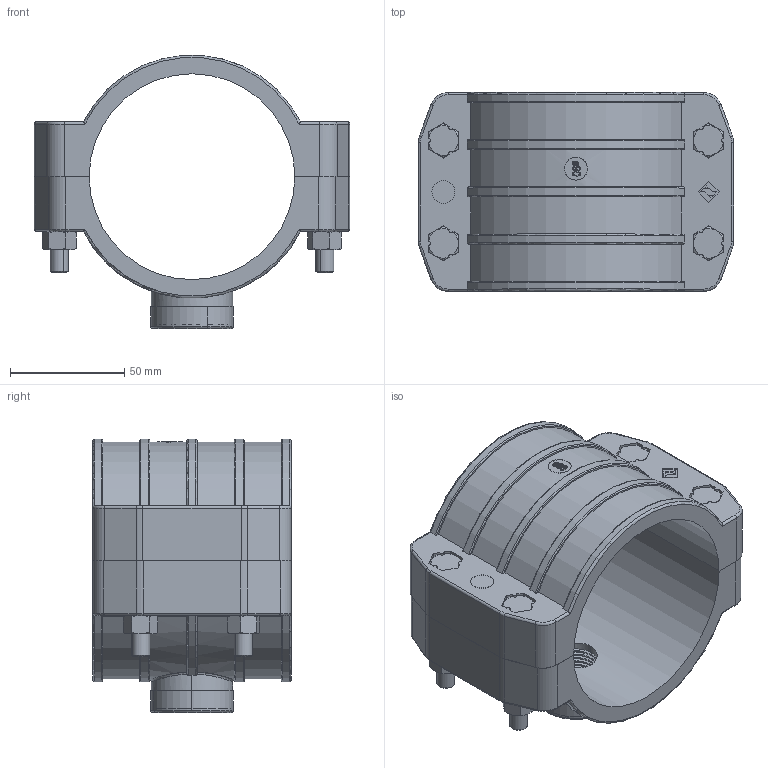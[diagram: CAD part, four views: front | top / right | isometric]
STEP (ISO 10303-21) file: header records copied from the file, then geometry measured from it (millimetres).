
FILE_DESCRIPTION (( 'STEP AP214' ), '1' );
FILE_NAME ('1580010065 - Staffa 90 - 1-2''''.STEP', '2021-11-22T15:55:02', ( '' ), ( '' ), 'SwSTEP 2.0', 'SolidWorks 2021', '' );
FILE_SCHEMA (( 'AUTOMOTIVE_DESIGN' ));
Length unit declared in the file: millimetre
Products named in the file (6): 158918016 - Staffa filettata azzurra D90x1_2''''; Dado M8^1580010065 - Staffa 90 - 1-2''''; 1580010065 - Staffa 90 - 1-2''''; 158922027 - Staffa cieca azzurra D90; M8x60^1580010065 - Staffa 90 - 1-2''''; Anello di rinforzo - 158930148
Assembly tree (11 placements, depth 2):
  1580010065 - Staffa 90 - 1-2''''
    158918016 - Staffa filettata azzurra D90x1_2''''
    158922027 - Staffa cieca azzurra D90
    Anello di rinforzo - 158930148
    M8x60^1580010065 - Staffa 90 - 1-2''''  x4
    Dado M8^1580010065 - Staffa 90 - 1-2''''  x4
Bounding box: 138 x 87 x 119.41 mm (x, y, z)
Volume: 343284 mm3; surface area: 98550.5 mm2
Topology: 11 solids, 11 shells, 685 faces, 1681 edges, 1057 vertices
Faces by surface type: plane 301, cylinder 154, cone 96, bspline 82, torus 52
Entity records: 45533 total; most frequent: CARTESIAN_POINT 33205, ORIENTED_EDGE 2642, DIRECTION 2272, EDGE_CURVE 1321, VERTEX_POINT 853, AXIS2_PLACEMENT_3D 773, LINE 726, VECTOR 726
